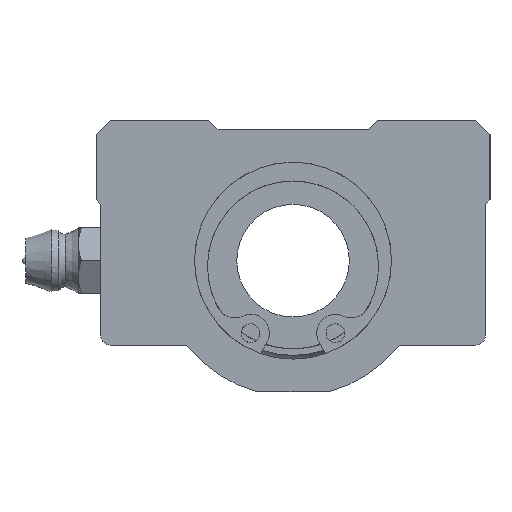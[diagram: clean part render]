
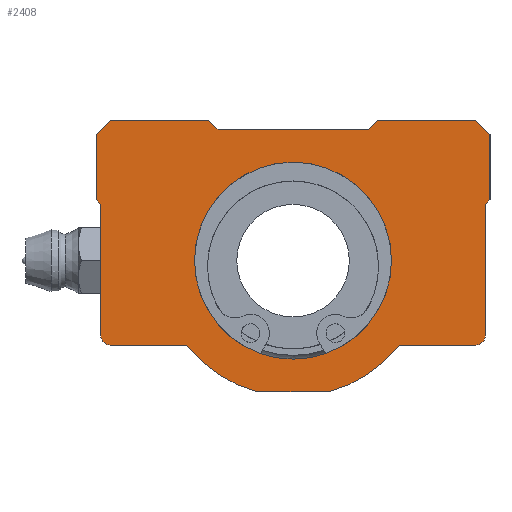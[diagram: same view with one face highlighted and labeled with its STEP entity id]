
A CAD part, left-side view. The second image highlights one B-rep face of the part: STEP entity #2408.
In plain terms, the highlighted planar face has unit normal (-1, 0, 0).
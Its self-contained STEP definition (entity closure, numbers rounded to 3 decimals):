
#1525=CARTESIAN_POINT('',(0.0,10.5,0.));
#1526=VERTEX_POINT('',#1525);
#1527=CARTESIAN_POINT('',(0.0,0.0,0.0));
#1528=DIRECTION('',(1.0,0.0,0.0));
#1529=DIRECTION('',(0.0,-1.0,0.0));
#1530=AXIS2_PLACEMENT_3D('',#1527,#1528,#1529);
#1531=CIRCLE('',#1530,10.5);
#1532=EDGE_CURVE('',#1526,#1526,#1531,.T.);
#1749=CARTESIAN_POINT('',(0.0,21.,13.5));
#1750=VERTEX_POINT('',#1749);
#1765=CARTESIAN_POINT('',(0.0,21.,6.5));
#1766=VERTEX_POINT('',#1765);
#1773=CARTESIAN_POINT('',(0.0,21.,6.5));
#1774=DIRECTION('',(0.0,0.0,1.0));
#1775=VECTOR('',#1774,7.0);
#1776=LINE('',#1773,#1775);
#1777=EDGE_CURVE('',#1766,#1750,#1776,.T.);
#1787=CARTESIAN_POINT('',(0.0,20.5,-8.));
#1788=VERTEX_POINT('',#1787);
#1797=CARTESIAN_POINT('',(0.0,20.5,6.));
#1798=VERTEX_POINT('',#1797);
#1799=CARTESIAN_POINT('',(0.0,20.5,-8.));
#1800=DIRECTION('',(0.0,0.0,1.0));
#1801=VECTOR('',#1800,14.);
#1802=LINE('',#1799,#1801);
#1803=EDGE_CURVE('',#1788,#1798,#1802,.T.);
#1888=CARTESIAN_POINT('',(0.0,3.775,-14.));
#1889=VERTEX_POINT('',#1888);
#1896=CARTESIAN_POINT('',(0.0,11.369,-9.));
#1897=VERTEX_POINT('',#1896);
#1898=CARTESIAN_POINT('',(0.0,0.0,0.0));
#1899=DIRECTION('',(1.,0.0,0.0));
#1900=DIRECTION('',(0.0,0.26,-0.966));
#1901=AXIS2_PLACEMENT_3D('',#1898,#1899,#1900);
#1902=CIRCLE('',#1901,14.5);
#1903=EDGE_CURVE('',#1889,#1897,#1902,.T.);
#1927=CARTESIAN_POINT('',(0.0,-3.775,-14.));
#1928=VERTEX_POINT('',#1927);
#1935=CARTESIAN_POINT('',(0.0,-3.775,-14.));
#1936=DIRECTION('',(0.0,1.0,0.0));
#1937=VECTOR('',#1936,7.55);
#1938=LINE('',#1935,#1937);
#1939=EDGE_CURVE('',#1928,#1889,#1938,.T.);
#1959=CARTESIAN_POINT('',(0.0,-11.369,-9.));
#1960=VERTEX_POINT('',#1959);
#1967=CARTESIAN_POINT('',(0.0,0.0,0.0));
#1968=DIRECTION('',(1.,0.0,0.0));
#1969=DIRECTION('',(0.0,0.26,-0.966));
#1970=AXIS2_PLACEMENT_3D('',#1967,#1968,#1969);
#1971=CIRCLE('',#1970,14.5);
#1972=EDGE_CURVE('',#1960,#1928,#1971,.T.);
#1983=CARTESIAN_POINT('',(0.0,-19.5,-9.));
#1984=VERTEX_POINT('',#1983);
#1993=CARTESIAN_POINT('',(0.0,-19.5,-9.));
#1994=DIRECTION('',(0.0,1.0,0.0));
#1995=VECTOR('',#1994,8.131);
#1996=LINE('',#1993,#1995);
#1997=EDGE_CURVE('',#1984,#1960,#1996,.T.);
#2020=CARTESIAN_POINT('',(0.0,-21.,13.5));
#2021=VERTEX_POINT('',#2020);
#2030=CARTESIAN_POINT('',(0.0,-21.,6.5));
#2031=VERTEX_POINT('',#2030);
#2032=CARTESIAN_POINT('',(0.0,-21.,13.5));
#2033=DIRECTION('',(0.0,0.0,-1.0));
#2034=VECTOR('',#2033,7.0);
#2035=LINE('',#2032,#2034);
#2036=EDGE_CURVE('',#2021,#2031,#2035,.T.);
#2062=CARTESIAN_POINT('',(0.0,-19.5,15.));
#2063=VERTEX_POINT('',#2062);
#2078=CARTESIAN_POINT('',(0.0,-9.0,15.));
#2079=VERTEX_POINT('',#2078);
#2086=CARTESIAN_POINT('',(0.0,-9.0,15.));
#2087=DIRECTION('',(0.0,-1.0,0.0));
#2088=VECTOR('',#2087,10.5);
#2089=LINE('',#2086,#2088);
#2090=EDGE_CURVE('',#2079,#2063,#2089,.T.);
#2113=CARTESIAN_POINT('',(0.0,-19.5,15.));
#2114=DIRECTION('',(0.0,-0.707,-0.707));
#2115=VECTOR('',#2114,2.121);
#2116=LINE('',#2113,#2115);
#2117=EDGE_CURVE('',#2063,#2021,#2116,.T.);
#2128=CARTESIAN_POINT('',(0.0,19.5,15.));
#2129=VERTEX_POINT('',#2128);
#2138=CARTESIAN_POINT('',(0.0,9.0,15.));
#2139=VERTEX_POINT('',#2138);
#2140=CARTESIAN_POINT('',(0.0,19.5,15.));
#2141=DIRECTION('',(0.0,-1.0,0.0));
#2142=VECTOR('',#2141,10.5);
#2143=LINE('',#2140,#2142);
#2144=EDGE_CURVE('',#2129,#2139,#2143,.T.);
#2181=CARTESIAN_POINT('',(0.0,21.,13.5));
#2182=DIRECTION('',(0.0,-0.707,0.707));
#2183=VECTOR('',#2182,2.121);
#2184=LINE('',#2181,#2183);
#2185=EDGE_CURVE('',#1750,#2129,#2184,.T.);
#2196=CARTESIAN_POINT('',(0.0,-8.,14.));
#2197=VERTEX_POINT('',#2196);
#2198=CARTESIAN_POINT('',(0.0,-8.,14.));
#2199=DIRECTION('',(0.0,-0.707,0.707));
#2200=VECTOR('',#2199,1.414);
#2201=LINE('',#2198,#2200);
#2202=EDGE_CURVE('',#2197,#2079,#2201,.T.);
#2227=CARTESIAN_POINT('',(0.0,8.,14.));
#2228=VERTEX_POINT('',#2227);
#2237=CARTESIAN_POINT('',(0.0,8.,14.));
#2238=DIRECTION('',(0.0,-1.0,0.0));
#2239=VECTOR('',#2238,16.);
#2240=LINE('',#2237,#2239);
#2241=EDGE_CURVE('',#2228,#2197,#2240,.T.);
#2258=CARTESIAN_POINT('',(0.0,9.0,15.));
#2259=DIRECTION('',(0.0,-0.707,-0.707));
#2260=VECTOR('',#2259,1.414);
#2261=LINE('',#2258,#2260);
#2262=EDGE_CURVE('',#2139,#2228,#2261,.T.);
#2280=CARTESIAN_POINT('',(0.0,-20.5,6.));
#2281=VERTEX_POINT('',#2280);
#2282=CARTESIAN_POINT('',(0.0,-21.,6.5));
#2283=DIRECTION('',(0.0,0.707,-0.707));
#2284=VECTOR('',#2283,0.707);
#2285=LINE('',#2282,#2284);
#2286=EDGE_CURVE('',#2031,#2281,#2285,.T.);
#2311=CARTESIAN_POINT('',(0.0,20.5,6.));
#2312=DIRECTION('',(0.0,0.707,0.707));
#2313=VECTOR('',#2312,0.707);
#2314=LINE('',#2311,#2313);
#2315=EDGE_CURVE('',#1798,#1766,#2314,.T.);
#2335=CARTESIAN_POINT('',(0.0,-20.5,-8.));
#2336=VERTEX_POINT('',#2335);
#2350=CARTESIAN_POINT('',(0.0,-20.5,6.));
#2351=DIRECTION('',(0.0,0.0,-1.0));
#2352=VECTOR('',#2351,14.);
#2353=LINE('',#2350,#2352);
#2354=EDGE_CURVE('',#2281,#2336,#2353,.T.);
#2359=CARTESIAN_POINT('',(0.0,0.,1.65));
#2360=DIRECTION('',(1.0,0.0,0.0));
#2361=DIRECTION('',(0.0,0.0,-1.0));
#2362=AXIS2_PLACEMENT_3D('',#2359,#2360,#2361);
#2363=PLANE('',#2362);
#2364=CARTESIAN_POINT('',(0.0,19.5,-9.));
#2365=VERTEX_POINT('',#2364);
#2366=CARTESIAN_POINT('',(0.0,19.5,-8.));
#2367=DIRECTION('',(1.,0.0,0.0));
#2368=DIRECTION('',(0.0,0.707,-0.707));
#2369=AXIS2_PLACEMENT_3D('',#2366,#2367,#2368);
#2370=CIRCLE('',#2369,1.);
#2371=EDGE_CURVE('',#2365,#1788,#2370,.T.);
#2372=ORIENTED_EDGE('',*,*,#2371,.F.);
#2373=CARTESIAN_POINT('',(0.0,11.369,-9.));
#2374=DIRECTION('',(0.0,1.0,0.0));
#2375=VECTOR('',#2374,8.131);
#2376=LINE('',#2373,#2375);
#2377=EDGE_CURVE('',#1897,#2365,#2376,.T.);
#2378=ORIENTED_EDGE('',*,*,#2377,.F.);
#2379=ORIENTED_EDGE('',*,*,#1903,.F.);
#2380=ORIENTED_EDGE('',*,*,#1939,.F.);
#2381=ORIENTED_EDGE('',*,*,#1972,.F.);
#2382=ORIENTED_EDGE('',*,*,#1997,.F.);
#2383=CARTESIAN_POINT('',(0.0,-19.5,-8.));
#2384=DIRECTION('',(1.,0.0,0.0));
#2385=DIRECTION('',(0.0,-0.707,-0.707));
#2386=AXIS2_PLACEMENT_3D('',#2383,#2384,#2385);
#2387=CIRCLE('',#2386,1.);
#2388=EDGE_CURVE('',#2336,#1984,#2387,.T.);
#2389=ORIENTED_EDGE('',*,*,#2388,.F.);
#2390=ORIENTED_EDGE('',*,*,#2354,.F.);
#2391=ORIENTED_EDGE('',*,*,#2286,.F.);
#2392=ORIENTED_EDGE('',*,*,#2036,.F.);
#2393=ORIENTED_EDGE('',*,*,#2117,.F.);
#2394=ORIENTED_EDGE('',*,*,#2090,.F.);
#2395=ORIENTED_EDGE('',*,*,#2202,.F.);
#2396=ORIENTED_EDGE('',*,*,#2241,.F.);
#2397=ORIENTED_EDGE('',*,*,#2262,.F.);
#2398=ORIENTED_EDGE('',*,*,#2144,.F.);
#2399=ORIENTED_EDGE('',*,*,#2185,.F.);
#2400=ORIENTED_EDGE('',*,*,#1777,.F.);
#2401=ORIENTED_EDGE('',*,*,#2315,.F.);
#2402=ORIENTED_EDGE('',*,*,#1803,.F.);
#2403=EDGE_LOOP('',(#2372,#2378,#2379,#2380,#2381,#2382,#2389,#2390,#2391,#2392,#2393,#2394,#2395,#2396,#2397,#2398,#2399,#2400,#2401,#2402));
#2404=FACE_OUTER_BOUND('',#2403,.T.);
#2405=ORIENTED_EDGE('',*,*,#1532,.T.);
#2406=EDGE_LOOP('',(#2405));
#2407=FACE_BOUND('',#2406,.T.);
#2408=ADVANCED_FACE('',(#2404,#2407),#2363,.F.);
